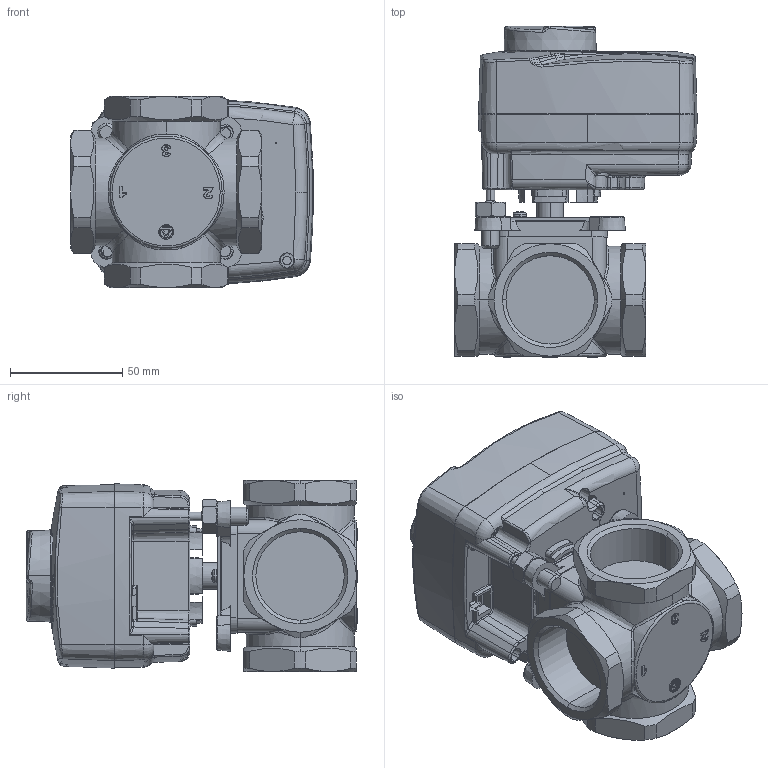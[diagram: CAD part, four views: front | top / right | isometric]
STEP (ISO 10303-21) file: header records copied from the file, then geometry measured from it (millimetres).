
FILE_DESCRIPTION (( 'STEP AP203' ), '1' );
FILE_NAME ('V4GB3215M60230.STEP', '2020-03-09T14:14:13', ( 'Windows User' ), ( 'Watts Water' ), 'SwSTEP 2.0', 'SolidWorks 2017', '' );
FILE_SCHEMA (( 'CONFIG_CONTROL_DESIGN' ));
Length unit declared in the file: millimetre
Products named in the file (1): V4GB3215M60230
Bounding box: 107.98 x 147.3 x 85 mm (x, y, z)
Surface area: 83276.4 mm2 (no closed solid volume)
Topology: 0 solids, 53 shells, 1216 faces, 6010 edges, 4720 vertices
Faces by surface type: plane 440, bspline 267, cylinder 206, cone 189, torus 110, sphere 4
Entity records: 88593 total; most frequent: CARTESIAN_POINT 45885, ORIENTED_EDGE 8424, DIRECTION 7237, EDGE_CURVE 5997, VERTEX_POINT 4720, LINE 3239, VECTOR 3239, AXIS2_PLACEMENT_3D 1999
